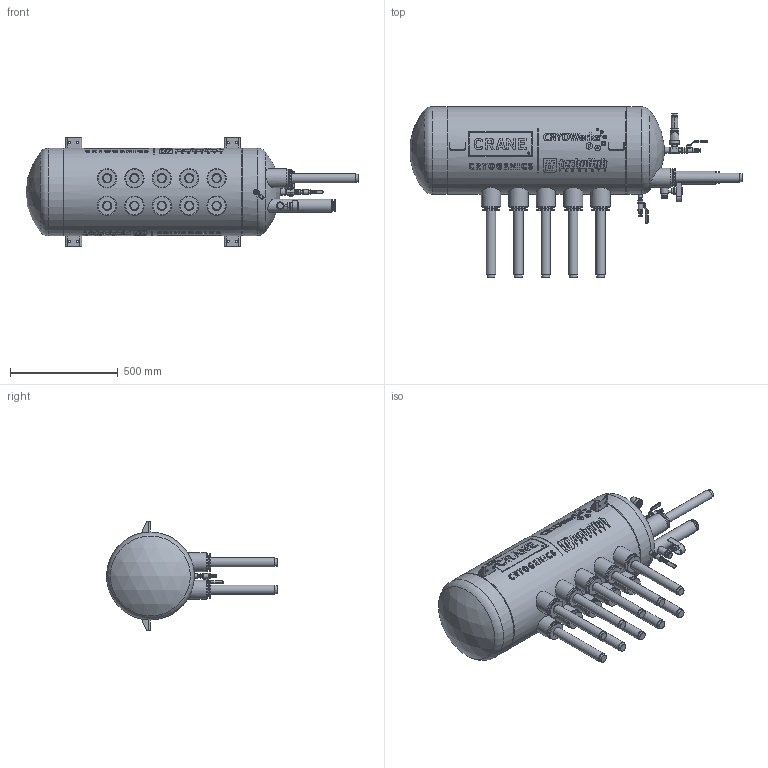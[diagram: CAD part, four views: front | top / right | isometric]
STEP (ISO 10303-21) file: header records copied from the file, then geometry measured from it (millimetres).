
FILE_DESCRIPTION (( 'STEP AP203' ), '1' );
FILE_NAME ('CA01780.step', '2025-12-17T20:03:35', ( '' ), ( '' ), 'SwSTEP 2.0', 'SolidWorks 2023', '' );
FILE_SCHEMA (( 'CONFIG_CONTROL_DESIGN' ));
Length unit declared in the file: inch
Products named in the file (1): CA01780
Bounding box: 1539.51 x 792.16 x 508 mm (x, y, z)
Volume: 154319601.5 mm3; surface area: 2650810.9 mm2
Topology: 1 solids, 13 shells, 2511 faces, 6281 edges, 4049 vertices
Faces by surface type: plane 1163, cylinder 656, cone 447, bspline 202, torus 29, sphere 14
Full cylindrical faces by diameter (mm): 4.182 x2, 4.581 x2, 4.75 x2, 4.775 x1, 4.977 x2, 5.527 x14, 5.71 x2, 6.221 x14, 6.272 x4, 6.35 x6, 6.446 x2, 7.112 x1, 7.722 x2, 7.976 x2, 8.307 x2, 8.598 x2, 9.188 x2, 9.246 x3, 9.322 x2, 9.525 x8, 9.544 x2, 9.842 x2, 10.171 x2, 10.262 x1, 10.661 x2, 11.112 x6, 11.225 x2, 12.494 x2, 12.7 x1, 12.804 x2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
Entity records: 173805 total; most frequent: CARTESIAN_POINT 120577, ORIENTED_EDGE 11334, DIRECTION 9699, EDGE_CURVE 5667, VERTEX_POINT 3867, AXIS2_PLACEMENT_3D 3722, EDGE_LOOP 3264, FACE_OUTER_BOUND 2739
